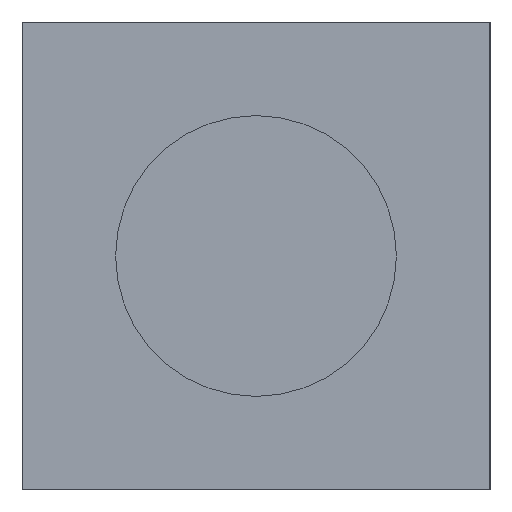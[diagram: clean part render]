
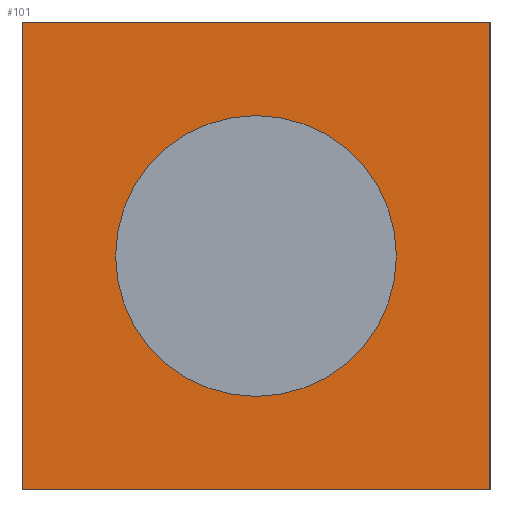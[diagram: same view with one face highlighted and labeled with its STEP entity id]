
A CAD part, left-side view. The second image highlights one B-rep face of the part: STEP entity #101.
In plain terms, the highlighted planar face has unit normal (-1, 0, 0).
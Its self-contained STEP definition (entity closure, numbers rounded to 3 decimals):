
#101 = ADVANCED_FACE( '', ( #161, #162 ), #163, .F. );
#161 = FACE_BOUND( '', #222, .T. );
#162 = FACE_OUTER_BOUND( '', #223, .T. );
#163 = PLANE( '', #224 );
#222 = EDGE_LOOP( '', ( #413, #414 ) );
#223 = EDGE_LOOP( '', ( #415, #416, #417, #418 ) );
#224 = AXIS2_PLACEMENT_3D( '', #419, #420, #421 );
#413 = ORIENTED_EDGE( '', *, *, #455, .T. );
#414 = ORIENTED_EDGE( '', *, *, #451, .T. );
#415 = ORIENTED_EDGE( '', *, *, #479, .F. );
#416 = ORIENTED_EDGE( '', *, *, #470, .F. );
#417 = ORIENTED_EDGE( '', *, *, #474, .F. );
#418 = ORIENTED_EDGE( '', *, *, #477, .F. );
#419 = CARTESIAN_POINT( '', ( 0., 0., 0. ) );
#420 = DIRECTION( '', ( 1., 0., 0. ) );
#421 = DIRECTION( '', ( 0., 0., -1. ) );
#451 = EDGE_CURVE( '', #535, #532, #536, .T. );
#455 = EDGE_CURVE( '', #532, #535, #541, .T. );
#470 = EDGE_CURVE( '', #557, #559, #560, .T. );
#474 = EDGE_CURVE( '', #564, #557, #566, .T. );
#477 = EDGE_CURVE( '', #569, #564, #571, .T. );
#479 = EDGE_CURVE( '', #559, #569, #573, .T. );
#532 = VERTEX_POINT( '', #642 );
#535 = VERTEX_POINT( '', #646 );
#536 = CIRCLE( '', #647, 1.5 );
#541 = CIRCLE( '', #653, 1.5 );
#557 = VERTEX_POINT( '', #670 );
#559 = VERTEX_POINT( '', #673 );
#560 = LINE( '', #674, #675 );
#564 = VERTEX_POINT( '', #681 );
#566 = LINE( '', #684, #685 );
#569 = VERTEX_POINT( '', #689 );
#571 = LINE( '', #692, #693 );
#573 = LINE( '', #696, #697 );
#642 = CARTESIAN_POINT( '', ( 0., 1.5, 0. ) );
#646 = CARTESIAN_POINT( '', ( 0., -1.5, 0. ) );
#647 = AXIS2_PLACEMENT_3D( '', #751, #752, #753 );
#653 = AXIS2_PLACEMENT_3D( '', #761, #762, #763 );
#670 = CARTESIAN_POINT( '', ( 0., 2.5, 2.5 ) );
#673 = CARTESIAN_POINT( '', ( 0., -2.5, 2.5 ) );
#674 = CARTESIAN_POINT( '', ( 0., 2.5, 2.5 ) );
#675 = VECTOR( '', #802, 1. );
#681 = CARTESIAN_POINT( '', ( 0., 2.5, -2.5 ) );
#684 = CARTESIAN_POINT( '', ( 0., 2.5, -2.5 ) );
#685 = VECTOR( '', #806, 1. );
#689 = CARTESIAN_POINT( '', ( 0., -2.5, -2.5 ) );
#692 = CARTESIAN_POINT( '', ( 0., -2.5, -2.5 ) );
#693 = VECTOR( '', #809, 1. );
#696 = CARTESIAN_POINT( '', ( 0., -2.5, 2.5 ) );
#697 = VECTOR( '', #811, 1. );
#751 = CARTESIAN_POINT( '', ( 0., 0., 0. ) );
#752 = DIRECTION( '', ( 1., 0., 0. ) );
#753 = DIRECTION( '', ( 0., 1., 0. ) );
#761 = CARTESIAN_POINT( '', ( 0., 0., 0. ) );
#762 = DIRECTION( '', ( 1., 0., 0. ) );
#763 = DIRECTION( '', ( 0., 1., 0. ) );
#802 = DIRECTION( '', ( 0., -1., 0. ) );
#806 = DIRECTION( '', ( 0., 0., 1. ) );
#809 = DIRECTION( '', ( 0., 1., 0. ) );
#811 = DIRECTION( '', ( 0., 0., -1. ) );
